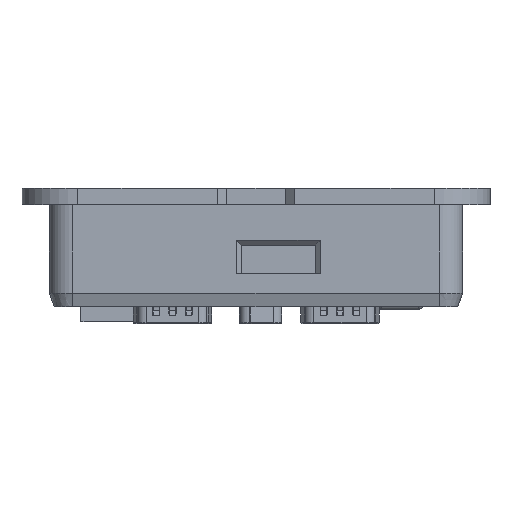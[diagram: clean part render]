
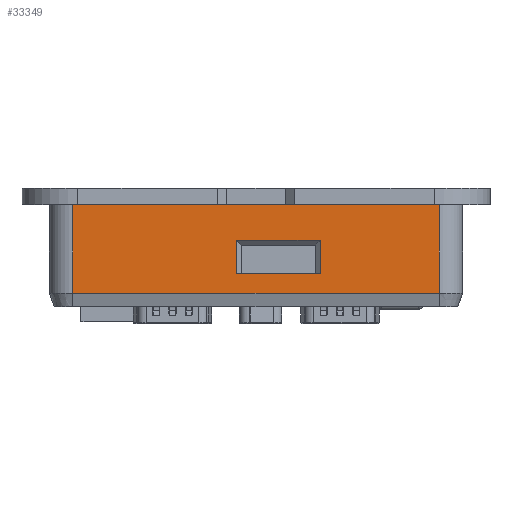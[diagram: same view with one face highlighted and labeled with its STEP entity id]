
A CAD part, left-side view. The second image highlights one B-rep face of the part: STEP entity #33349.
In plain terms, the highlighted planar face has unit normal (-1, 0, 0).
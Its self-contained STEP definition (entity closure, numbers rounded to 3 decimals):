
#628=FACE_BOUND('',#5293,.T.);
#2381=PLANE('',#35537);
#3214=FACE_OUTER_BOUND('',#5292,.T.);
#5292=EDGE_LOOP('',(#23418,#23419,#23420,#23421));
#5293=EDGE_LOOP('',(#23422,#23423,#23424,#23425));
#7701=LINE('',#49121,#10182);
#7746=LINE('',#49229,#10227);
#7747=LINE('',#49232,#10228);
#7748=LINE('',#49233,#10229);
#7749=LINE('',#49236,#10230);
#7750=LINE('',#49238,#10231);
#7751=LINE('',#49240,#10232);
#7752=LINE('',#49241,#10233);
#10182=VECTOR('',#39388,10.);
#10227=VECTOR('',#39509,10.);
#10228=VECTOR('',#39512,10.);
#10229=VECTOR('',#39513,10.);
#10230=VECTOR('',#39514,10.);
#10231=VECTOR('',#39515,10.);
#10232=VECTOR('',#39516,10.);
#10233=VECTOR('',#39517,10.);
#14079=VERTEX_POINT('',#49118);
#14080=VERTEX_POINT('',#49120);
#14105=VERTEX_POINT('',#49226);
#14106=VERTEX_POINT('',#49231);
#14107=VERTEX_POINT('',#49234);
#14108=VERTEX_POINT('',#49235);
#14109=VERTEX_POINT('',#49237);
#14110=VERTEX_POINT('',#49239);
#17596=EDGE_CURVE('',#14080,#14079,#7701,.T.);
#17650=EDGE_CURVE('',#14080,#14105,#7746,.T.);
#17651=EDGE_CURVE('',#14105,#14106,#7747,.T.);
#17652=EDGE_CURVE('',#14106,#14079,#7748,.T.);
#17653=EDGE_CURVE('',#14107,#14108,#7749,.T.);
#17654=EDGE_CURVE('',#14109,#14108,#7750,.T.);
#17655=EDGE_CURVE('',#14110,#14109,#7751,.T.);
#17656=EDGE_CURVE('',#14107,#14110,#7752,.T.);
#23418=ORIENTED_EDGE('',*,*,#17651,.F.);
#23419=ORIENTED_EDGE('',*,*,#17650,.F.);
#23420=ORIENTED_EDGE('',*,*,#17596,.T.);
#23421=ORIENTED_EDGE('',*,*,#17652,.F.);
#23422=ORIENTED_EDGE('',*,*,#17653,.T.);
#23423=ORIENTED_EDGE('',*,*,#17654,.F.);
#23424=ORIENTED_EDGE('',*,*,#17655,.F.);
#23425=ORIENTED_EDGE('',*,*,#17656,.F.);
#33349=ADVANCED_FACE('',(#3214,#628),#2381,.T.);
#35537=AXIS2_PLACEMENT_3D('',#49230,#39510,#39511);
#39388=DIRECTION('',(0.,1.,0.));
#39509=DIRECTION('',(0.,0.,-1.));
#39510=DIRECTION('center_axis',(-1.,0.,0.));
#39511=DIRECTION('ref_axis',(0.,1.,0.));
#39512=DIRECTION('',(0.,1.,0.));
#39513=DIRECTION('',(0.,0.,1.));
#39514=DIRECTION('',(0.,1.,0.));
#39515=DIRECTION('',(0.,0.,-1.));
#39516=DIRECTION('',(0.,1.,0.));
#39517=DIRECTION('',(0.,0.,1.));
#49118=CARTESIAN_POINT('',(-91.292,70.201,14.267));
#49120=CARTESIAN_POINT('',(-91.292,-8.599,14.267));
#49121=CARTESIAN_POINT('',(-91.292,75.201,14.267));
#49226=CARTESIAN_POINT('',(-91.292,-8.599,-6.283));
#49229=CARTESIAN_POINT('',(-91.292,-8.599,16.267));
#49230=CARTESIAN_POINT('Origin',(-91.292,-13.399,16.267));
#49231=CARTESIAN_POINT('',(-91.292,70.201,-6.283));
#49232=CARTESIAN_POINT('',(-91.292,-0.299,-6.283));
#49233=CARTESIAN_POINT('',(-91.292,70.201,16.267));
#49234=CARTESIAN_POINT('',(-91.292,17.001,-2.133));
#49235=CARTESIAN_POINT('',(-91.292,35.001,-2.133));
#49236=CARTESIAN_POINT('',(-91.292,10.301,-2.133));
#49237=CARTESIAN_POINT('',(-91.292,35.001,5.067));
#49238=CARTESIAN_POINT('',(-91.292,35.001,10.167));
#49239=CARTESIAN_POINT('',(-91.292,17.001,5.067));
#49240=CARTESIAN_POINT('',(-91.292,2.301,5.067));
#49241=CARTESIAN_POINT('',(-91.292,17.001,7.067));
